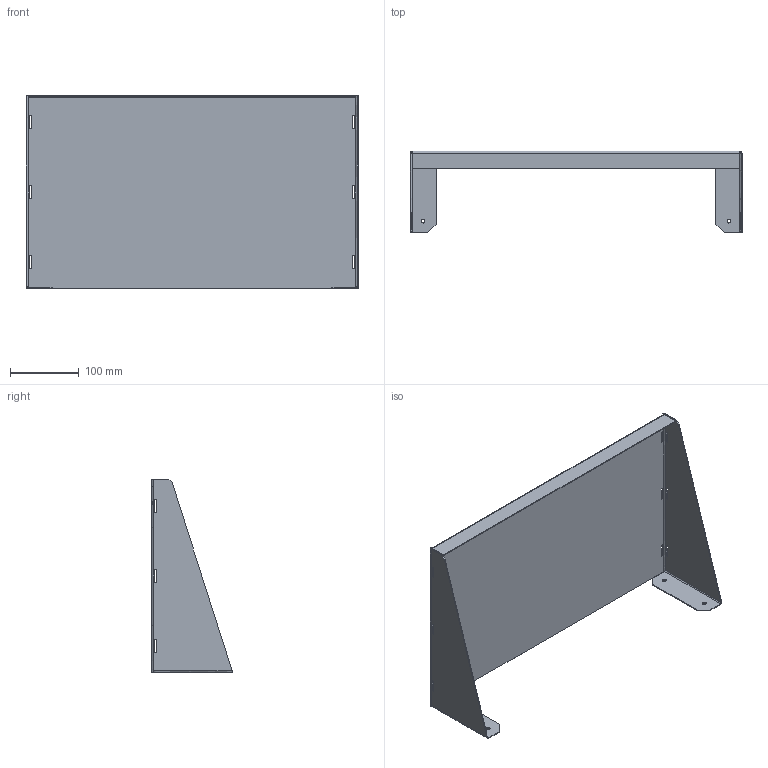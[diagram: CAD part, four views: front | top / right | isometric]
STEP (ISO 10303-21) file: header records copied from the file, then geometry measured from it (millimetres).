
FILE_DESCRIPTION((''),'2;1');
FILE_NAME('D:\a00506\Phantom.stp','2004-08-13T11:16:58',( 'Rick Hagglund'),('Hoffman Enclosures Inc.'),'I-DEAS Master Series 9', 'UNIX','Yes');
FILE_SCHEMA(('AUTOMOTIVE_DESIGN { 1 0 10303 214 0 1 1 1 }'));
Length unit declared in the file: inch
Products named in the file (1): 57495751
Bounding box: 484.17 x 118.82 x 281.43 mm (x, y, z)
Volume: 272267.1 mm3; surface area: 393445.3 mm2
Topology: 1 solids, 1 shells, 100 faces, 286 edges, 188 vertices
Faces by surface type: bspline 100
Entity records: 3083 total; most frequent: CARTESIAN_POINT 1300, ORIENTED_EDGE 572, EDGE_CURVE 286, QUASI_UNIFORM_CURVE 244, VERTEX_POINT 188, EDGE_LOOP 132, FACE_OUTER_BOUND 100, ADVANCED_FACE 100
